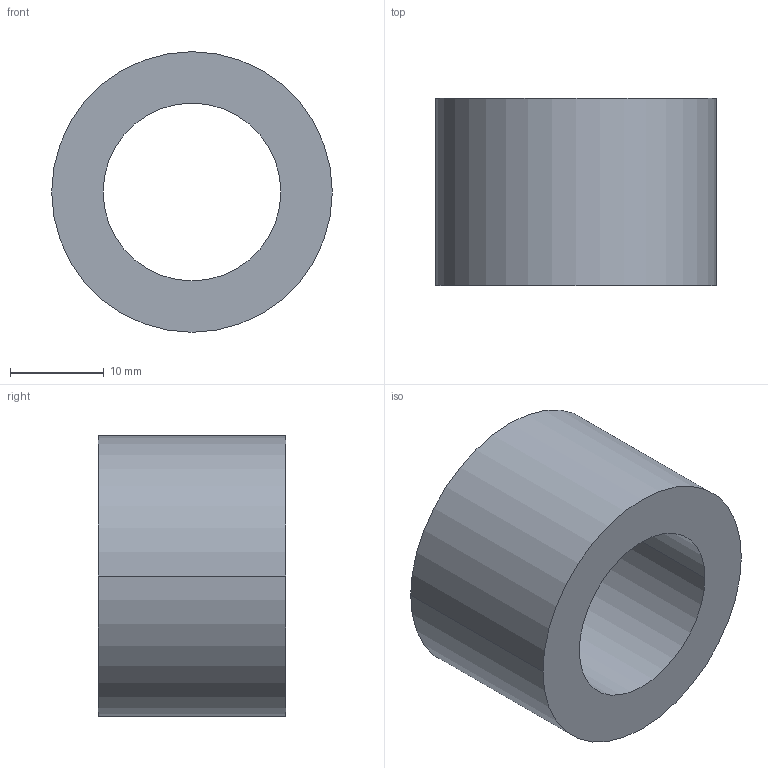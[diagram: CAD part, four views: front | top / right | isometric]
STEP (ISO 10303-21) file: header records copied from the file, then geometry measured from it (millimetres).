
FILE_DESCRIPTION (( 'STEP AP203' ), '1' );
FILE_NAME ('30800.WPP30H19.0.step', '2019-01-23T22:46:38', ( '' ), ( '' ), 'SwSTEP 2.0', 'SolidWorks 2017', '' );
FILE_SCHEMA (( 'CONFIG_CONTROL_DESIGN' ));
Length unit declared in the file: millimetre
Products named in the file (1): 30800.WPP30H19.0
Bounding box: 30 x 20 x 30 mm (x, y, z)
Volume: 8343.2 mm3; surface area: 3852.6 mm2
Topology: 1 solids, 1 shells, 8 faces, 16 edges, 10 vertices
Faces by surface type: cylinder 4, torus 2, plane 2
Entity records: 297 total; most frequent: DIRECTION 46, CARTESIAN_POINT 35, ORIENTED_EDGE 32, AXIS2_PLACEMENT_3D 21, EDGE_CURVE 16, CIRCLE 12, VERTEX_POINT 10, EDGE_LOOP 10
